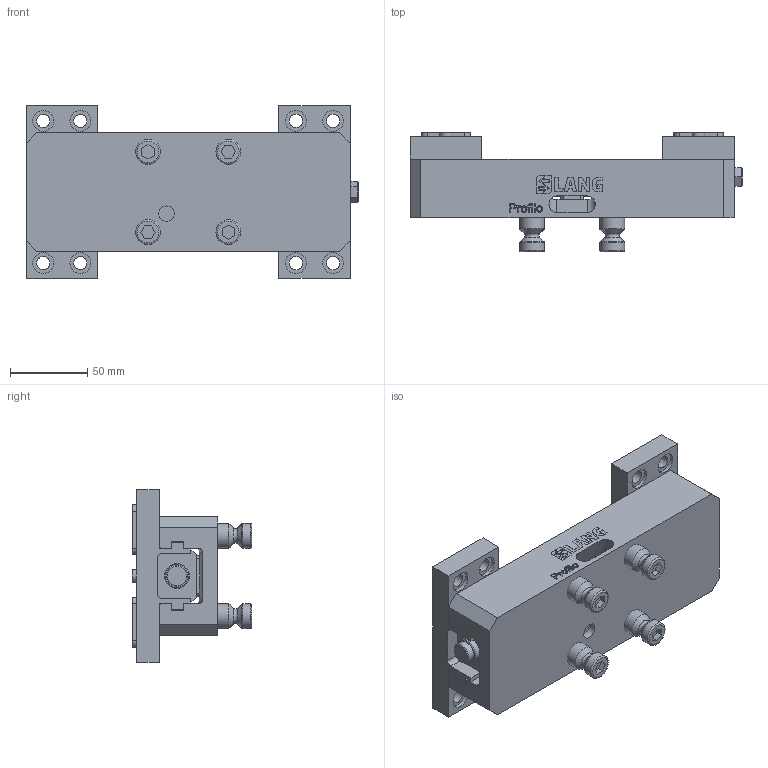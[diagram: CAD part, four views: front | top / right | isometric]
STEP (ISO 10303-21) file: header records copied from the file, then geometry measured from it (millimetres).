
FILE_DESCRIPTION (( 'STEP AP214' ), '1' );
FILE_NAME ('49120-77.STEP', '2020-03-13T14:14:01', ( '' ), ( '' ), 'SwSTEP 2.0', 'SolidWorks 2019', '' );
FILE_SCHEMA (( 'AUTOMOTIVE_DESIGN' ));
Length unit declared in the file: millimetre
Products named in the file (3): Profilo_49120-77; 49077; 49120-77
Assembly tree (3 placements, depth 2):
  49120-77
    Profilo_49120-77
    49077  x2
Bounding box: 215 x 77.5 x 112 mm (x, y, z)
Volume: 630835.6 mm3; surface area: 139120.5 mm2
Topology: 40 solids, 40 shells, 752 faces, 1864 edges, 1223 vertices
Faces by surface type: plane 537, bspline 102, cylinder 82, cone 19, torus 12
Full cylindrical faces by diameter (mm): 6.8 x4, 8.5 x8, 10 x1, 12 x8, 13.5 x9, 16 x12
Entity records: 30951 total; most frequent: CARTESIAN_POINT 7668, ORIENTED_EDGE 3238, DIRECTION 2680, EDGE_CURVE 1619, VECTOR 1262, LINE 1262, VERTEX_POINT 1101, EDGE_LOOP 802
